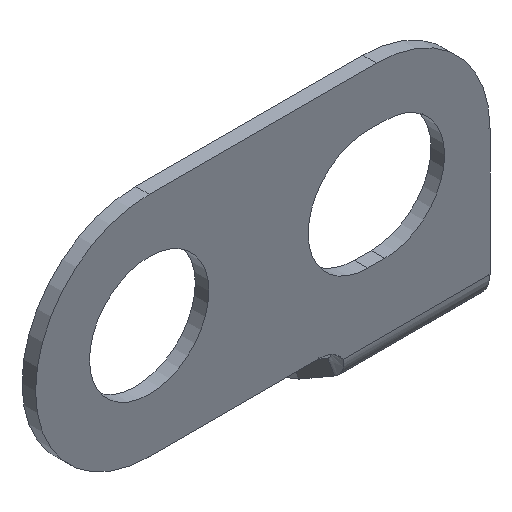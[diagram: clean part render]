
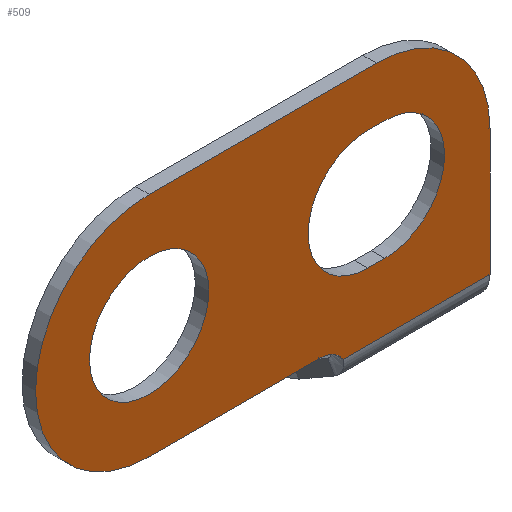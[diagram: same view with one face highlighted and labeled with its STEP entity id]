
A CAD part, isometric view. The second image highlights one B-rep face of the part: STEP entity #509.
In plain terms, the highlighted planar face has unit normal (0, -1, 0).
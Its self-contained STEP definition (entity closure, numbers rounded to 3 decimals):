
#18=FACE_BOUND('',#108,.T.);
#19=FACE_BOUND('',#109,.T.);
#44=PLANE('',#554);
#74=FACE_OUTER_BOUND('',#107,.T.);
#107=EDGE_LOOP('',(#457,#458,#459,#460,#461,#462,#463));
#108=EDGE_LOOP('',(#464,#465,#466,#467));
#109=EDGE_LOOP('',(#468));
#112=LINE('',#702,#159);
#115=LINE('',#708,#162);
#140=LINE('',#843,#187);
#152=LINE('',#911,#199);
#155=LINE('',#919,#202);
#156=LINE('',#923,#203);
#159=VECTOR('',#567,0.3);
#162=VECTOR('',#572,0.3);
#187=VECTOR('',#635,2.583);
#199=VECTOR('',#671,4.);
#202=VECTOR('',#680,3.);
#203=VECTOR('',#687,2.224);
#204=CIRCLE('',#513,1.05);
#206=CIRCLE('',#518,1.05);
#211=CIRCLE('',#533,1.05);
#217=CIRCLE('',#546,2.);
#218=CIRCLE('',#549,2.);
#219=CIRCLE('',#552,0.5);
#220=VERTEX_POINT('',#692);
#221=VERTEX_POINT('',#693);
#224=VERTEX_POINT('',#701);
#226=VERTEX_POINT('',#707);
#246=VERTEX_POINT('',#835);
#248=VERTEX_POINT('',#840);
#249=VERTEX_POINT('',#842);
#257=VERTEX_POINT('',#903);
#258=VERTEX_POINT('',#905);
#259=VERTEX_POINT('',#909);
#260=VERTEX_POINT('',#913);
#261=VERTEX_POINT('',#917);
#262=EDGE_CURVE('',#220,#221,#204,.T.);
#266=EDGE_CURVE('',#224,#220,#112,.T.);
#269=EDGE_CURVE('',#221,#226,#115,.T.);
#272=EDGE_CURVE('',#226,#224,#206,.T.);
#302=EDGE_CURVE('',#246,#246,#211,.T.);
#305=EDGE_CURVE('',#249,#248,#140,.T.);
#321=EDGE_CURVE('',#258,#257,#217,.T.);
#324=EDGE_CURVE('',#257,#259,#152,.T.);
#326=EDGE_CURVE('',#259,#260,#218,.T.);
#328=EDGE_CURVE('',#260,#261,#155,.T.);
#329=EDGE_CURVE('',#261,#249,#219,.T.);
#330=EDGE_CURVE('',#248,#258,#156,.T.);
#457=ORIENTED_EDGE('',*,*,#305,.T.);
#458=ORIENTED_EDGE('',*,*,#330,.T.);
#459=ORIENTED_EDGE('',*,*,#321,.T.);
#460=ORIENTED_EDGE('',*,*,#324,.T.);
#461=ORIENTED_EDGE('',*,*,#326,.T.);
#462=ORIENTED_EDGE('',*,*,#328,.T.);
#463=ORIENTED_EDGE('',*,*,#329,.T.);
#464=ORIENTED_EDGE('',*,*,#269,.T.);
#465=ORIENTED_EDGE('',*,*,#272,.T.);
#466=ORIENTED_EDGE('',*,*,#266,.T.);
#467=ORIENTED_EDGE('',*,*,#262,.T.);
#468=ORIENTED_EDGE('',*,*,#302,.T.);
#509=ADVANCED_FACE('',(#74,#18,#19),#44,.F.);
#513=AXIS2_PLACEMENT_3D('',#694,#559,#560);
#518=AXIS2_PLACEMENT_3D('',#713,#577,#578);
#533=AXIS2_PLACEMENT_3D('',#836,#628,#629);
#546=AXIS2_PLACEMENT_3D('',#906,#665,#666);
#549=AXIS2_PLACEMENT_3D('',#915,#675,#676);
#552=AXIS2_PLACEMENT_3D('',#921,#683,#684);
#554=AXIS2_PLACEMENT_3D('',#924,#688,#689);
#559=DIRECTION('center_axis',(0.,1.,0.));
#560=DIRECTION('ref_axis',(0.,0.,-1.));
#567=DIRECTION('',(-1.,0.,0.));
#572=DIRECTION('',(1.,0.,0.));
#577=DIRECTION('center_axis',(0.,1.,0.));
#578=DIRECTION('ref_axis',(0.,0.,1.));
#628=DIRECTION('center_axis',(0.,1.,0.));
#629=DIRECTION('ref_axis',(1.,0.,0.));
#635=DIRECTION('',(1.,0.,0.));
#665=DIRECTION('center_axis',(0.,-1.,0.));
#666=DIRECTION('ref_axis',(0.,0.,-1.));
#671=DIRECTION('',(-1.,0.,0.));
#675=DIRECTION('center_axis',(0.,-1.,0.));
#676=DIRECTION('ref_axis',(1.,0.,0.));
#680=DIRECTION('',(1.,0.,0.));
#683=DIRECTION('center_axis',(0.,1.,0.));
#684=DIRECTION('ref_axis',(0.,0.,1.));
#687=DIRECTION('',(0.,0.,1.));
#688=DIRECTION('center_axis',(0.,1.,0.));
#689=DIRECTION('ref_axis',(0.,0.,1.));
#692=CARTESIAN_POINT('',(1.85,0.,-0.05));
#693=CARTESIAN_POINT('',(1.85,0.,2.05));
#694=CARTESIAN_POINT('Origin',(1.85,0.,1.));
#701=CARTESIAN_POINT('',(2.15,0.,-0.05));
#702=CARTESIAN_POINT('',(1.14,0.,-0.05));
#707=CARTESIAN_POINT('',(2.15,0.,2.05));
#708=CARTESIAN_POINT('',(1.14,0.,2.05));
#713=CARTESIAN_POINT('Origin',(2.15,0.,1.));
#835=CARTESIAN_POINT('',(-0.95,0.,1.));
#836=CARTESIAN_POINT('Origin',(-2.,0.,1.));
#840=CARTESIAN_POINT('',(4.,0.,-1.224));
#842=CARTESIAN_POINT('',(1.417,0.,-1.224));
#843=CARTESIAN_POINT('',(0.848,0.,-1.224));
#903=CARTESIAN_POINT('',(2.,0.,3.));
#905=CARTESIAN_POINT('',(4.,0.,1.));
#906=CARTESIAN_POINT('Origin',(2.,0.,1.));
#909=CARTESIAN_POINT('',(-2.,0.,3.));
#911=CARTESIAN_POINT('',(2.,0.,3.));
#913=CARTESIAN_POINT('',(-2.,0.,-1.));
#915=CARTESIAN_POINT('Origin',(-2.,0.,1.));
#917=CARTESIAN_POINT('',(1.,0.,-1.));
#919=CARTESIAN_POINT('',(-2.,0.,-1.));
#921=CARTESIAN_POINT('Origin',(1.,0.,-1.5));
#923=CARTESIAN_POINT('',(4.,0.,-1.5));
#924=CARTESIAN_POINT('Origin',(0.279,0.,0.767));
